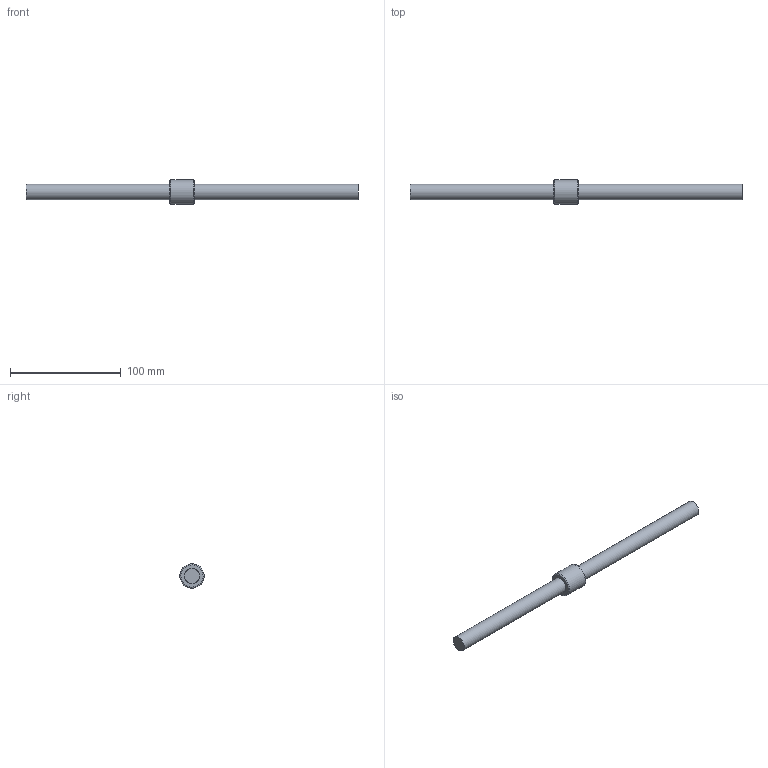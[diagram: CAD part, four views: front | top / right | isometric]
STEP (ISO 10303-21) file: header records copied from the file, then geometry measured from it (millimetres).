
FILE_DESCRIPTION((''),'2;1');
FILE_NAME('D:\製品 (図面)\カタログ用3D\ネジ関連\STEP形式\TMS\TMS14.stp','2010-06-02T15:31:17',('Tsuchiya'),(''),'Autodesk Inventor 10','Autodesk Inventor 10','');
FILE_SCHEMA(('AUTOMOTIVE_DESIGN { 1 0 10303 214 1 1 1 1 }'));
Length unit declared in the file: millimetre
Products named in the file (3): TMS14; TMS141; TMS142
Assembly tree (2 placements, depth 2):
  TMS14
    TMS141
    TMS142
Bounding box: 300 x 21.99 x 21.99 mm (x, y, z)
Volume: 51128.6 mm3; surface area: 16382.9 mm2
Topology: 2 solids, 2 shells, 9 faces, 13 edges, 8 vertices
Faces by surface type: plane 4, cylinder 3, torus 2
Full cylindrical faces by diameter (mm): 14 x2, 22 x1
Entity records: 254 total; most frequent: DIRECTION 44, CARTESIAN_POINT 30, AXIS2_PLACEMENT_3D 22, ORIENTED_EDGE 16, EDGE_LOOP 16, FACE_OUTER_BOUND 9, ADVANCED_FACE 9, VERTEX_POINT 8
